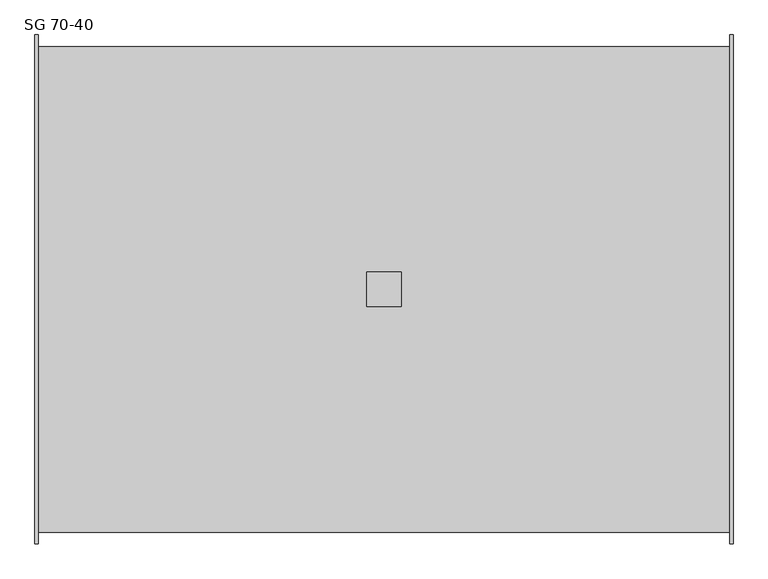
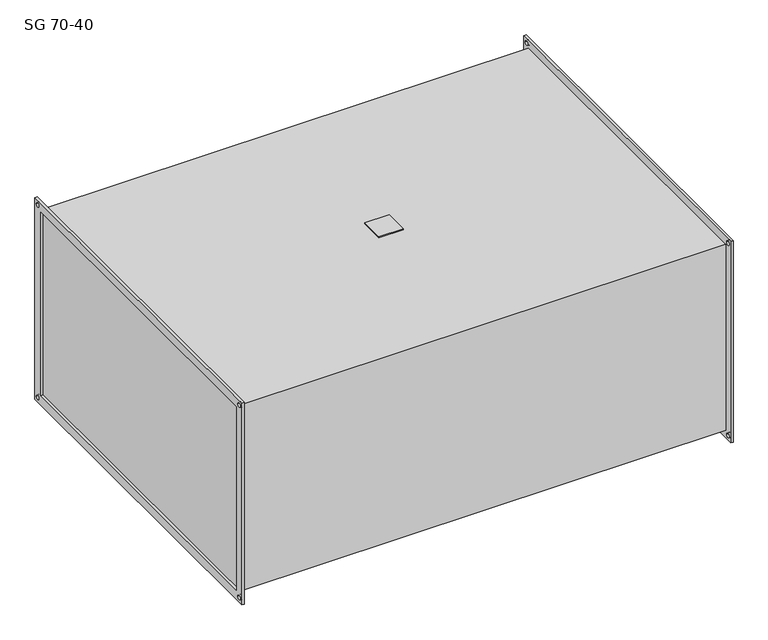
"""IFC4 building model written with IfcOpenShell, lengths in millimetres: damper geometry, KORF_Шумоглушитель_SG : SG 70-40."""

from ifc_helpers import new_model, si_unit, point, frame, frame_2d, origin, place, context, project, spatial, polyline, circle_curve, trimmed, segment, composite_curve, outline, extrude, source, transform, mapped, element, save


def sg_70_40_5b22be34(model_context):
    return source(origin(), model_context, "Body", "SweptSolid", [
        extrude(outline(polyline([(482.0, -25.0), (482.0, 25.0), (532.0, 25.0), (532.0, -25.0), (482.0, -25.0)])), frame((0.0, 0.0, 203.0), z_axis=(0.0, 0.0, 1.0), x_axis=(1.0, 0.0, 0.0)), (0.0, 0.0, 1.0), 2.0),
        extrude(outline(polyline([(-370.0, 220.0), (370.0, 220.0), (370.0, -220.0), (-370.0, -220.0), (-370.0, 220.0)]), holes=[polyline([(-350.0, 200.0), (-350.0, -200.0), (350.0, -200.0), (350.0, 200.0), (-350.0, 200.0)]), composite_curve([segment(trimmed(circle_curve(frame_2d((360.0, 210.0)), 4.5), [point((355.5, 210.0))], [point((364.5, 210.0))], True, "CARTESIAN"), True, "CONTINUOUS"), segment(trimmed(circle_curve(frame_2d((360.0, 210.0)), 4.5), [point((364.5, 210.0))], [point((355.5, 210.0))], True, "CARTESIAN"), True, "CONTINUOUS")], self_intersect=False), composite_curve([segment(trimmed(circle_curve(frame_2d((-360.0, 210.0)), 4.5), [point((-364.5, 210.0))], [point((-355.5, 210.0))], True, "CARTESIAN"), True, "CONTINUOUS"), segment(trimmed(circle_curve(frame_2d((-360.0, 210.0)), 4.5), [point((-355.5, 210.0))], [point((-364.5, 210.0))], True, "CARTESIAN"), True, "CONTINUOUS")], self_intersect=False), composite_curve([segment(trimmed(circle_curve(frame_2d((-360.0, -210.0)), 4.5), [point((-364.5, -210.0))], [point((-355.5, -210.0))], True, "CARTESIAN"), True, "CONTINUOUS"), segment(trimmed(circle_curve(frame_2d((-360.0, -210.0)), 4.5), [point((-355.5, -210.0))], [point((-364.5, -210.0))], True, "CARTESIAN"), True, "CONTINUOUS")], self_intersect=False), composite_curve([segment(trimmed(circle_curve(frame_2d((360.0, -210.0)), 4.5), [point((355.5, -210.0))], [point((364.5, -210.0))], True, "CARTESIAN"), True, "CONTINUOUS"), segment(trimmed(circle_curve(frame_2d((360.0, -210.0)), 4.5), [point((364.5, -210.0))], [point((355.5, -210.0))], True, "CARTESIAN"), True, "CONTINUOUS")], self_intersect=False)]), frame((1009.0, 0.0, 0.0), z_axis=(1.0, 0.0, 0.0), x_axis=(0.0, 1.0, 0.0)), (0.0, 0.0, 1.0), 5.0),
        extrude(outline(polyline([(-370.0, 220.0), (370.0, 220.0), (370.0, -220.0), (-370.0, -220.0), (-370.0, 220.0)]), holes=[polyline([(-350.0, 200.0), (-350.0, -200.0), (350.0, -200.0), (350.0, 200.0), (-350.0, 200.0)]), composite_curve([segment(trimmed(circle_curve(frame_2d((360.0, 210.0)), 4.5), [point((355.5, 210.0))], [point((364.5, 210.0))], True, "CARTESIAN"), True, "CONTINUOUS"), segment(trimmed(circle_curve(frame_2d((360.0, 210.0)), 4.5), [point((364.5, 210.0))], [point((355.5, 210.0))], True, "CARTESIAN"), True, "CONTINUOUS")], self_intersect=False), composite_curve([segment(trimmed(circle_curve(frame_2d((-360.0, 210.0)), 4.5), [point((-364.5, 210.0))], [point((-355.5, 210.0))], True, "CARTESIAN"), True, "CONTINUOUS"), segment(trimmed(circle_curve(frame_2d((-360.0, 210.0)), 4.5), [point((-355.5, 210.0))], [point((-364.5, 210.0))], True, "CARTESIAN"), True, "CONTINUOUS")], self_intersect=False), composite_curve([segment(trimmed(circle_curve(frame_2d((-360.0, -210.0)), 4.5), [point((-364.5, -210.0))], [point((-355.5, -210.0))], True, "CARTESIAN"), True, "CONTINUOUS"), segment(trimmed(circle_curve(frame_2d((-360.0, -210.0)), 4.5), [point((-355.5, -210.0))], [point((-364.5, -210.0))], True, "CARTESIAN"), True, "CONTINUOUS")], self_intersect=False), composite_curve([segment(trimmed(circle_curve(frame_2d((360.0, -210.0)), 4.5), [point((355.5, -210.0))], [point((364.5, -210.0))], True, "CARTESIAN"), True, "CONTINUOUS"), segment(trimmed(circle_curve(frame_2d((360.0, -210.0)), 4.5), [point((364.5, -210.0))], [point((355.5, -210.0))], True, "CARTESIAN"), True, "CONTINUOUS")], self_intersect=False)]), frame((0.0, 0.0, 0.0), z_axis=(1.0, 0.0, 0.0), x_axis=(0.0, 1.0, 0.0)), (0.0, 0.0, 1.0), 5.0),
        extrude(outline(polyline([(1009.0, 353.0), (1009.0, -353.0), (5.0, -353.0), (5.0, 353.0), (1009.0, 353.0)])), frame((0.0, 0.0, -203.0), z_axis=(0.0, 0.0, 1.0), x_axis=(1.0, 0.0, 0.0)), (0.0, 0.0, 1.0), 406.0),
    ])


if __name__ == "__main__":
    model = new_model("IFC4")
    model_context = context("Model", 3, world=origin())
    ifc_project = project(units=[si_unit("LENGTHUNIT", "METRE", prefix="MILLI")], contexts=[model_context])
    site = spatial("IfcSite", under=ifc_project)
    building = spatial("IfcBuilding", under=site)
    placement = place(None, origin())
    sg_70_40_shape = sg_70_40_5b22be34(model_context)
    element("IfcDamper", 1, ObjectType="KORF_Шумоглушитель_SG : SG 70-40", at=placement, inside=building, context=model_context, shape_type="MappedRepresentation", body=[
        mapped(sg_70_40_shape, transform((0.0, 0.0, 0.0), x_axis=(1.0, 0.0, 0.0), y_axis=(0.0, 1.0, 0.0), z_axis=(0.0, 0.0, 1.0))),
    ])
    save(model, "model.ifc")
